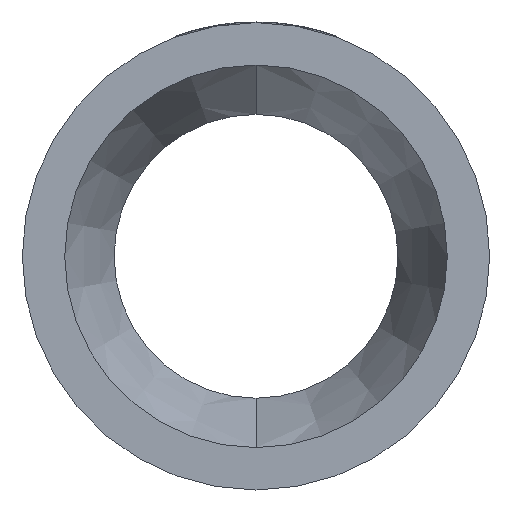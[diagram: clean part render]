
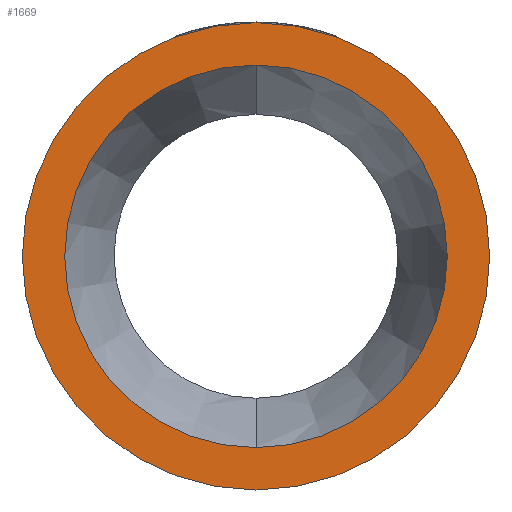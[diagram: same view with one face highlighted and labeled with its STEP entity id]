
A CAD part, left-side view. The second image highlights one B-rep face of the part: STEP entity #1669.
In plain terms, the highlighted planar face has unit normal (-1, 0, 0).
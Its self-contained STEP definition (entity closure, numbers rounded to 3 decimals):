
#32 = FACE_OUTER_BOUND ( 'NONE', #2145, .T. ) ;
#130 = CIRCLE ( 'NONE', #2399, 177.5 ) ;
#235 = FACE_BOUND ( 'NONE', #1677, .T. ) ;
#319 = CIRCLE ( 'NONE', #2405, 145.3 ) ;
#370 = EDGE_CURVE ( 'NONE', #1009, #1319, #319, .T. ) ;
#375 = CARTESIAN_POINT ( 'NONE',  ( 0., 0., 0. ) ) ;
#387 = EDGE_CURVE ( 'NONE', #2610, #3462, #130, .T. ) ;
#749 = CIRCLE ( 'NONE', #1847, 177.5 ) ;
#919 = DIRECTION ( 'NONE',  ( 0., 0., 1. ) ) ;
#939 = DIRECTION ( 'NONE',  ( -1., 0., 0. ) ) ;
#966 = CARTESIAN_POINT ( 'NONE',  ( 0., 0., 0. ) ) ;
#1009 = VERTEX_POINT ( 'NONE', #1066 ) ;
#1066 = CARTESIAN_POINT ( 'NONE',  ( 0., 0., 145.3 ) ) ;
#1216 = ORIENTED_EDGE ( 'NONE', *, *, #3627, .F. ) ;
#1241 = AXIS2_PLACEMENT_3D ( 'NONE', #1439, #1423, #1385 ) ;
#1271 = ORIENTED_EDGE ( 'NONE', *, *, #387, .T. ) ;
#1296 = CARTESIAN_POINT ( 'NONE',  ( 0., 0., -177.5 ) ) ;
#1319 = VERTEX_POINT ( 'NONE', #2494 ) ;
#1385 = DIRECTION ( 'NONE',  ( 0., 0., -1. ) ) ;
#1423 = DIRECTION ( 'NONE',  ( 1., 0., 0. ) ) ;
#1439 = CARTESIAN_POINT ( 'NONE',  ( 0., 145.3, 0. ) ) ;
#1669 = ADVANCED_FACE ( 'NONE', ( #235, #32 ), #1711, .F. ) ;
#1677 = EDGE_LOOP ( 'NONE', ( #1742, #1216 ) ) ;
#1711 = PLANE ( 'NONE',  #1241 ) ;
#1742 = ORIENTED_EDGE ( 'NONE', *, *, #370, .F. ) ;
#1847 = AXIS2_PLACEMENT_3D ( 'NONE', #966, #939, #919 ) ;
#1938 = CIRCLE ( 'NONE', #2608, 145.3 ) ;
#2145 = EDGE_LOOP ( 'NONE', ( #3466, #1271 ) ) ;
#2294 = CARTESIAN_POINT ( 'NONE',  ( 0., 0., 0. ) ) ;
#2399 = AXIS2_PLACEMENT_3D ( 'NONE', #375, #3517, #3537 ) ;
#2405 = AXIS2_PLACEMENT_3D ( 'NONE', #2294, #2639, #2570 ) ;
#2494 = CARTESIAN_POINT ( 'NONE',  ( 0., 0., -145.3 ) ) ;
#2570 = DIRECTION ( 'NONE',  ( 0., 0., 1. ) ) ;
#2586 = DIRECTION ( 'NONE',  ( 0., 0., 1. ) ) ;
#2601 = DIRECTION ( 'NONE',  ( -1., 0., 0. ) ) ;
#2608 = AXIS2_PLACEMENT_3D ( 'NONE', #2803, #2601, #2586 ) ;
#2610 = VERTEX_POINT ( 'NONE', #1296 ) ;
#2639 = DIRECTION ( 'NONE',  ( -1., 0., 0. ) ) ;
#2802 = CARTESIAN_POINT ( 'NONE',  ( 0., 0., 177.5 ) ) ;
#2803 = CARTESIAN_POINT ( 'NONE',  ( 0., 0., 0. ) ) ;
#3350 = EDGE_CURVE ( 'NONE', #3462, #2610, #749, .T. ) ;
#3462 = VERTEX_POINT ( 'NONE', #2802 ) ;
#3466 = ORIENTED_EDGE ( 'NONE', *, *, #3350, .T. ) ;
#3517 = DIRECTION ( 'NONE',  ( -1., 0., 0. ) ) ;
#3537 = DIRECTION ( 'NONE',  ( 0., 0., 1. ) ) ;
#3627 = EDGE_CURVE ( 'NONE', #1319, #1009, #1938, .T. ) ;
